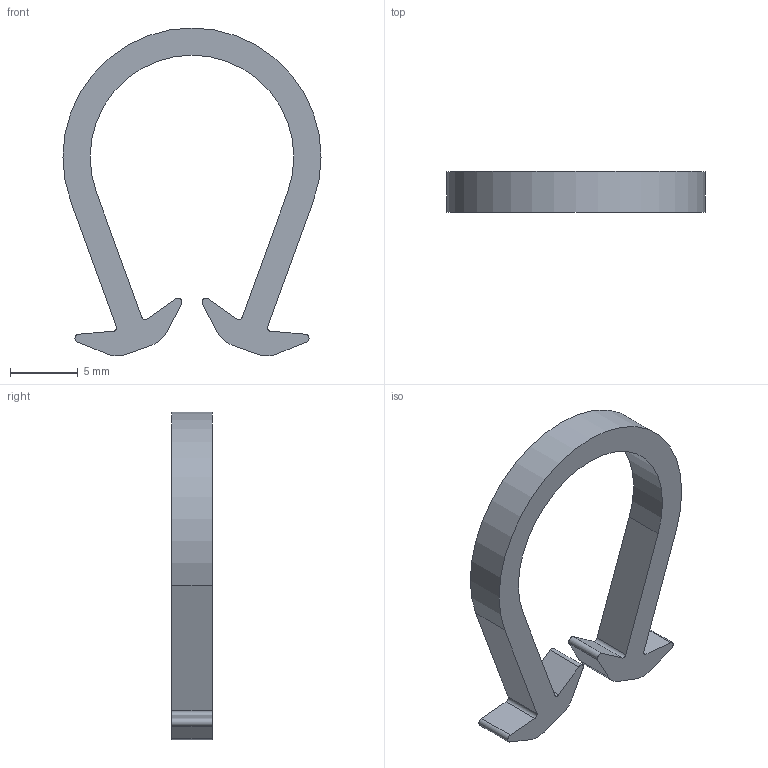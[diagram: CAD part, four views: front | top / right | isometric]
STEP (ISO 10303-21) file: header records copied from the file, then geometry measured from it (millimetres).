
FILE_DESCRIPTION (( 'STEP AP203' ), '1' );
FILE_NAME ('BR01_POWER_HUB_CLIP.STEP');
FILE_SCHEMA (( 'CONFIG_CONTROL_DESIGN' ));
Length unit declared in the file: millimetre
Products named in the file (1): BR01_POWER_HUB_CLIP
Bounding box: 19 x 3 x 24.14 mm (x, y, z)
Volume: 393.9 mm3; surface area: 679.8 mm2
Topology: 1 solids, 1 shells, 32 faces, 90 edges, 60 vertices
Faces by surface type: cylinder 16, plane 16
Entity records: 1123 total; most frequent: DIRECTION 188, CARTESIAN_POINT 183, ORIENTED_EDGE 180, EDGE_CURVE 90, AXIS2_PLACEMENT_3D 65, VERTEX_POINT 60, LINE 58, VECTOR 58
